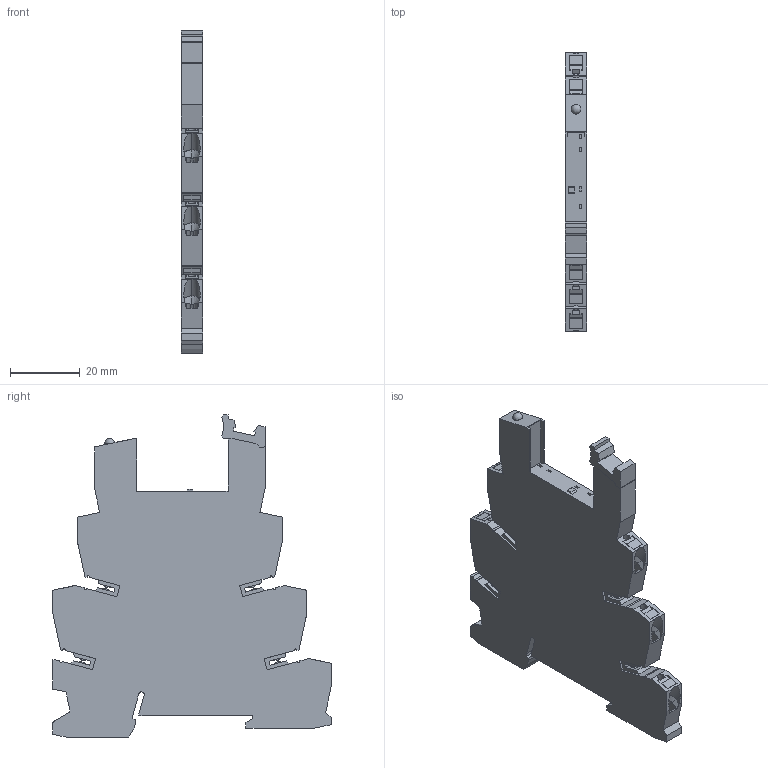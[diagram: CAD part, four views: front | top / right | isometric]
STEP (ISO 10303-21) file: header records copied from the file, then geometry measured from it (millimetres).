
FILE_DESCRIPTION(('TFLEX Exchange Step'),'2;1');
FILE_NAME('60102001_РПБ-1-230A-1A_P.stp', '2023-11-02T14:36:46+03:00',('apanin'),('Unknown organisation'),'TFLEX Exchange 2023.0','T-FLEX CAD','Unknown authorisation');
FILE_SCHEMA( ('AUTOMOTIVE_DESIGN { 1 0 10303 214 1 1 1 1 }') );
Length unit declared in the file: millimetre
Products named in the file (1): Тело_1:1
Bounding box: 6.1 x 80 x 92.6 mm (x, y, z)
Volume: 27755.6 mm3; surface area: 13707.2 mm2
Topology: 1 solids, 1 shells, 625 faces, 1821 edges, 1218 vertices
Faces by surface type: plane 387, cylinder 227, cone 10, sphere 1
Entity records: 20948 total; most frequent: CARTESIAN_POINT 4752, ORIENTED_EDGE 3638, DIRECTION 3064, EDGE_CURVE 1819, VERTEX_POINT 1218, AXIS2_PLACEMENT_3D 1049, VECTOR 966, LINE 966
